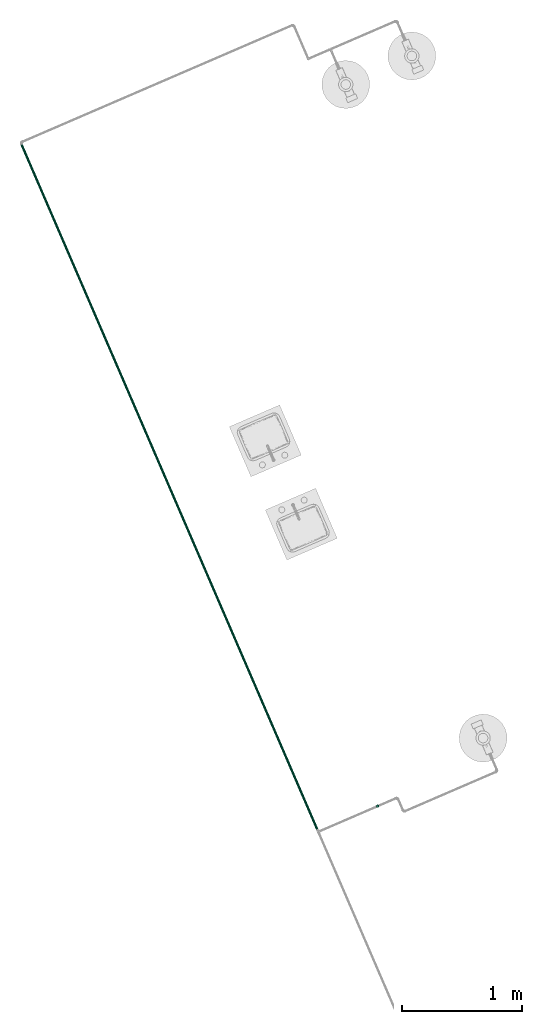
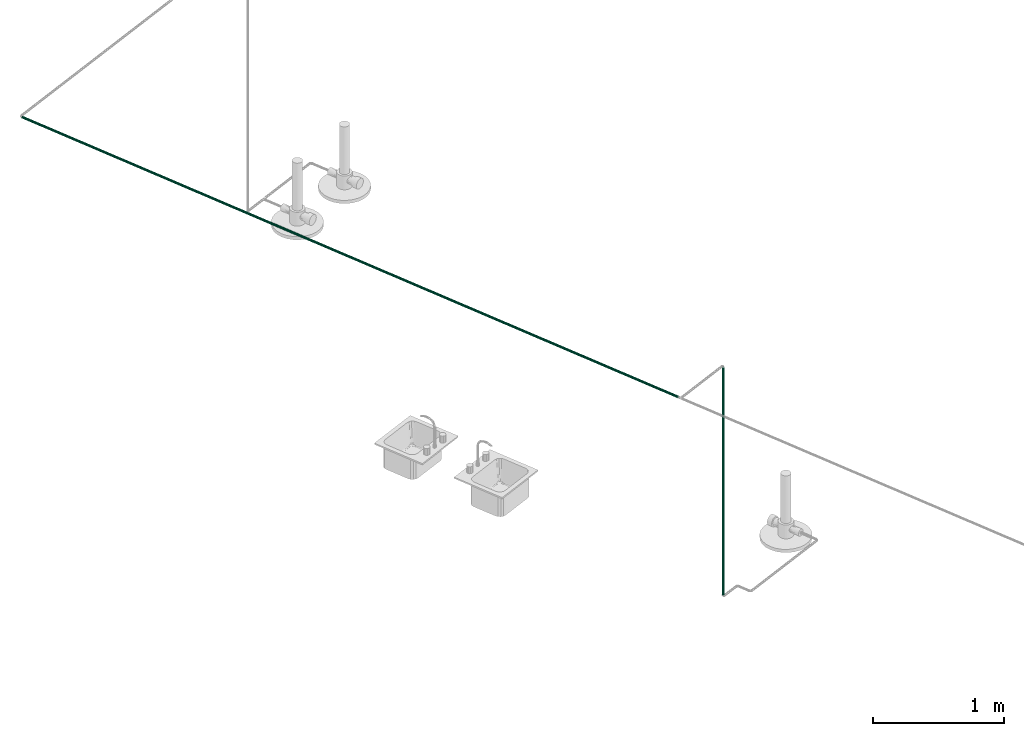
# One storey, part 8 of 26: 2 pipe segments.
"""IFC4 building model written with IfcOpenShell, lengths in metres."""

from ifc_helpers import new_model, entity, si_unit, converted_unit, derived_unit, direction, frame, origin, place, context, subcontext, project, spatial, arc, indexed_curve, outline, extrude, material, type_object, element, save


model = new_model("IFC4")

# Units and contexts
model_context = context("Model", 3, precision=1e-05, world=origin(), true_north=direction((6.12323399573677e-17, 1.0)))
body_context = subcontext(model_context, "Body", "Model", "MODEL_VIEW")
ifc_project = project(units=[si_unit("LENGTHUNIT", "METRE"), si_unit("AREAUNIT", "SQUARE_METRE"), si_unit("VOLUMEUNIT", "CUBIC_METRE"), si_unit("PRESSUREUNIT", "PASCAL"), derived_unit("VOLUMETRICFLOWRATEUNIT", [(si_unit("LENGTHUNIT", "METRE", prefix="DECI"), 3), (si_unit("TIMEUNIT", "SECOND"), -1)]), converted_unit("PLANEANGLEUNIT", "DEGREE", entity("IfcPlaneAngleMeasure", 0.0174532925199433), si_unit("PLANEANGLEUNIT", "RADIAN"), dimensions=[0, 0, 0, 0, 0, 0, 0])], contexts=[model_context])

# Site, building, storey
site_placement = place(None, origin())
site = spatial("IfcSite", under=ifc_project, at=site_placement, Name="Default", CompositionType="ELEMENT")
building_placement = place(site_placement, frame((24.575451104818, -55.896759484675, 317.15), z_axis=(0.0, 0.0, 1.0), x_axis=(-0.396377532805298, 0.918087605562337, 0.0)))
building = spatial("IfcBuilding", under=site, at=building_placement, CompositionType="ELEMENT")
storey_placement = place(building_placement, origin())
storey = spatial("IfcBuildingStorey", under=building, at=storey_placement, Name="Nivel 1", CompositionType="ELEMENT", Elevation=0.0)

# Pipe segments
ifc_material = material(Name="Cobre", Category="Undefined")
pipe_segment_type = type_object("IfcPipeSegmentType", Name="Pipe Types:GAS", PredefinedType="NOTDEFINED")
pipe_segment_1_placement = place(storey_placement, origin())
element("IfcPipeSegment", 1, at=pipe_segment_1_placement, inside=storey, type_object=pipe_segment_type, material=ifc_material, Name="Pipe Types:GAS", ObjectType="Pipe Types:GAS", PredefinedType="NOTDEFINED", context=body_context, shape_type="SweptSolid", body=[
    extrude(outline(indexed_curve([(0.0100000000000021, 0.0), (0.00707106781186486, 0.00707106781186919), (0.0, 0.00999999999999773), (-0.00707106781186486, 0.00707106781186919), (-0.0100000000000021, 0.0), (-0.00707106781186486, -0.00707106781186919), (0.0, -0.00999999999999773), (0.00707106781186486, -0.00707106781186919)], segments=[arc(1, 2, 3), arc(3, 4, 5), arc(5, 6, 7), arc(7, 8, 1)], self_intersect=False)), frame((29.0193069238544, 41.9748549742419, 0.872962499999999), z_axis=(0.0, 0.0, 1.0), x_axis=(-1.0, 0.0, 0.0)), (0.0, 0.0, 1.0), 2.10957500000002),
])
pipe_segment_2_placement = place(storey_placement, origin())
element("IfcPipeSegment", 2, at=pipe_segment_2_placement, inside=storey, type_object=pipe_segment_type, material=ifc_material, Name="Pipe Types:GAS", ObjectType="Pipe Types:GAS", PredefinedType="NOTDEFINED", context=body_context, shape_type="SweptSolid", body=[
    extrude(outline(indexed_curve([(0.00999999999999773, 0.0), (0.00707106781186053, 0.00707106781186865), (-8.66293703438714e-15, 0.00999999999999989), (-0.00707106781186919, 0.00707106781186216), (-0.00999999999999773, 0.0), (-0.00707106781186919, -0.00707106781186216), (-8.66293703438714e-15, -0.00999999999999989), (0.00707106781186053, -0.00707106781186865)], segments=[arc(1, 2, 3), arc(3, 4, 5), arc(5, 6, 7), arc(7, 8, 1)], self_intersect=False)), frame((29.0431194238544, 42.5138766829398, 3.0), z_axis=(1.0, 0.0, 0.0), x_axis=(0.0, 1.0, 0.0)), (0.0, 0.0, 1.0), 6.21813268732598),
])

save(model, "model.ifc")
